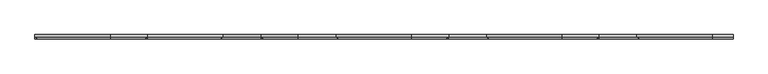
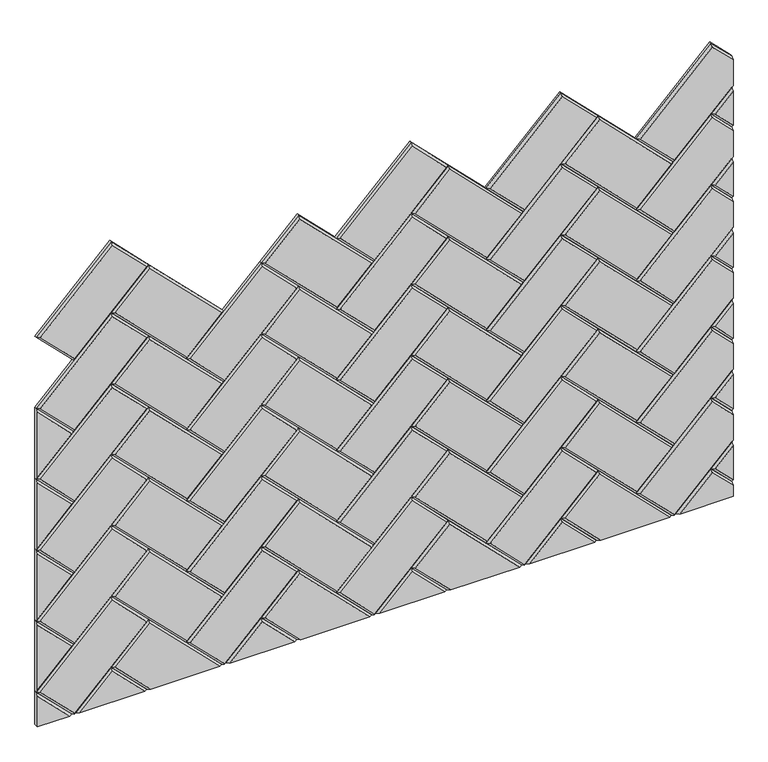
"""IFC4 building model written with IfcOpenShell, lengths in millimetres: proxy geometry, Wall_Wisteria 6.3dm."""

from ifc_helpers import new_model, si_unit, origin, place, context, project, spatial, faceted_brep, source, transform, mapped, element, save


def generic_models_9d3aa62c(model_context):
    return source(origin(), model_context, "Body", "Brep", [
        faceted_brep([(8168.7454586, 12.0, 0.0), (8270.8926325, 12.0, 102.1471739), (8373.0398064, 12.0, 0.0), (8373.0398064, 6.0, 0.0), (8270.8926325, 6.0, 102.1471739), (8168.7454586, 6.0, 0.0), (8177.23074, 0.0, 0.0), (8364.554525, 0.0, 0.0), (8270.8926325, 0.0, 93.6618925)], [[[0, 1, 2]], [[3, 2, 1, 4]], [[0, 5, 4, 1]], [[6, 7, 8]], [[7, 3, 4, 8]], [[5, 6, 8, 4]], [[0, 2, 3, 7, 6, 5]]]),
        faceted_brep([(8373.0398064, 12.0, 0.0), (8270.8926325, 12.0, 102.1471739), (8378.655706, 12.0, 209.9102473), (8588.5659533, 12.0, 0.0), (8588.5659533, 6.0, 0.0), (8378.655706, 6.0, 209.9102473), (8270.8926325, 6.0, 102.1471739), (8373.0398064, 6.0, 0.0), (8381.5250878, 0.0, 0.0), (8580.0806719, 0.0, 0.0), (8378.655706, 0.0, 201.424966), (8279.3779139, 0.0, 102.1471739)], [[[0, 1, 2, 3]], [[4, 3, 2, 5]], [[5, 2, 1, 6]], [[0, 7, 6, 1]], [[8, 9, 10, 11]], [[9, 4, 5, 10]], [[5, 6, 11, 10]], [[7, 8, 11, 6]], [[0, 3, 4, 9, 8, 7]]]),
        faceted_brep([(8762.2096042, 12.0, 162.4118517), (8599.7977524, 12.0, 0.0), (8588.5659533, 12.0, 0.0), (8486.4187794, 12.0, 102.1471739), (8701.9449263, 12.0, 317.6733208), (8762.2096042, 12.0, 257.408643), (8762.2096042, 6.0, 257.408643), (8701.9449263, 6.0, 317.6733208), (8486.4187794, 6.0, 102.1471739), (8588.5659533, 6.0, 0.0), (8599.7977524, 6.0, 0.0), (8762.2096042, 6.0, 162.4118517), (8762.2096042, 0.0, 170.8971331), (8762.2096042, 0.0, 248.9233616), (8701.9449263, 0.0, 309.1880394), (8494.9040608, 0.0, 102.1471739), (8594.1818529, 0.0, 2.8693818), (8594.1818529, 2.0289593, 0.0)], [[[0, 1, 2, 3, 4, 5]], [[6, 5, 4, 7]], [[7, 4, 3, 8]], [[2, 9, 8, 3]], [[10, 1, 0, 11]], [[12, 13, 14, 15, 16]], [[13, 6, 7, 14]], [[7, 8, 15, 14]], [[9, 17, 16, 15, 8]], [[17, 10, 11, 12, 16]], [[9, 2, 1, 10, 17]], [[0, 5, 6, 13, 12, 11]]]),
        faceted_brep([(8762.2096042, 12.0, 377.9379987), (8594.1818529, 12.0, 209.9102473), (8486.4187794, 12.0, 317.6733208), (8701.9449263, 12.0, 533.1994677), (8762.2096042, 12.0, 472.9347899), (8762.2096042, 6.0, 472.9347899), (8701.9449263, 6.0, 533.1994677), (8486.4187794, 6.0, 317.6733208), (8594.1818529, 6.0, 209.9102473), (8762.2096042, 6.0, 377.9379987), (8762.2096042, 0.0, 386.42328), (8762.2096042, 0.0, 464.4495085), (8701.9449263, 0.0, 524.7141863), (8494.9040608, 0.0, 317.6733208), (8594.1818529, 0.0, 218.3955287)], [[[0, 1, 2, 3, 4]], [[5, 4, 3, 6]], [[6, 3, 2, 7]], [[7, 2, 1, 8]], [[0, 9, 8, 1]], [[10, 11, 12, 13, 14]], [[11, 5, 6, 12]], [[6, 7, 13, 12]], [[7, 8, 14, 13]], [[9, 10, 14, 8]], [[0, 4, 5, 11, 10, 9]]]),
        faceted_brep([(8762.2096042, 12.0, 0.0), (8599.7977524, 12.0, 0.0), (8701.9449263, 12.0, 102.1471739), (8762.2096042, 12.0, 41.882496), (8762.2096042, 6.0, 41.882496), (8701.9449263, 6.0, 102.1471739), (8599.7977524, 6.0, 0.0), (8608.2830338, 0.0, 0.0), (8762.2096042, 0.0, 0.0), (8762.2096042, 0.0, 33.3972147), (8701.9449263, 0.0, 93.6618925)], [[[0, 1, 2, 3]], [[4, 3, 2, 5]], [[1, 6, 5, 2]], [[7, 8, 9, 10]], [[9, 4, 5, 10]], [[6, 7, 10, 5]], [[7, 6, 1, 0, 8]], [[0, 3, 4, 9, 8]]]),
        faceted_brep([(8762.2096042, 12.0, 41.882496), (8701.9449263, 12.0, 102.1471739), (8762.2096042, 12.0, 162.4118517), (8762.2096042, 6.0, 162.4118517), (8701.9449263, 6.0, 102.1471739), (8762.2096042, 6.0, 41.882496), (8762.2096042, 0.0, 50.3677774), (8762.2096042, 0.0, 153.9265704), (8710.4302077, 0.0, 102.1471739)], [[[0, 1, 2]], [[3, 2, 1, 4]], [[0, 5, 4, 1]], [[6, 7, 8]], [[7, 3, 4, 8]], [[5, 6, 8, 4]], [[0, 2, 3, 7, 6, 5]]]),
        faceted_brep([(8762.2096042, 12.0, 257.408643), (8701.9449263, 12.0, 317.6733208), (8762.2096042, 12.0, 377.9379987), (8762.2096042, 6.0, 377.9379987), (8701.9449263, 6.0, 317.6733208), (8762.2096042, 6.0, 257.408643), (8762.2096042, 0.0, 265.8939243), (8762.2096042, 0.0, 369.4527173), (8710.4302077, 0.0, 317.6733208)], [[[0, 1, 2]], [[3, 2, 1, 4]], [[0, 5, 4, 1]], [[6, 7, 8]], [[7, 3, 4, 8]], [[5, 6, 8, 4]], [[0, 2, 3, 7, 6, 5]]]),
        faceted_brep([(7306.640871, 12.0, 0.0), (7408.7880449, 12.0, 102.1471739), (7510.9352188, 12.0, 0.0), (7510.9352188, 6.0, 0.0), (7408.7880449, 6.0, 102.1471739), (7306.640871, 6.0, 0.0), (7315.1261524, 0.0, 0.0), (7502.4499374, 0.0, 0.0), (7408.7880449, 0.0, 93.6618925)], [[[0, 1, 2]], [[3, 2, 1, 4]], [[0, 5, 4, 1]], [[6, 7, 8]], [[7, 3, 4, 8]], [[5, 6, 8, 4]], [[0, 2, 3, 7, 6, 5]]]),
        faceted_brep([(7737.6931648, 12.0, 0.0), (7839.8403387, 12.0, 102.1471739), (7941.9875126, 12.0, 0.0), (7941.9875126, 6.0, 0.0), (7839.8403387, 6.0, 102.1471739), (7737.6931648, 6.0, 0.0), (7746.1784462, 0.0, 0.0), (7933.5022312, 0.0, 0.0), (7839.8403387, 0.0, 93.6618925)], [[[0, 1, 2]], [[3, 2, 1, 4]], [[0, 5, 4, 1]], [[6, 7, 8]], [[7, 3, 4, 8]], [[5, 6, 8, 4]], [[0, 2, 3, 7, 6, 5]]]),
        faceted_brep([(7510.9352188, 12.0, 0.0), (7408.7880449, 12.0, 102.1471739), (7516.5511183, 12.0, 209.9102473), (7726.4613657, 12.0, 0.0), (7726.4613657, 6.0, 0.0), (7516.5511183, 6.0, 209.9102473), (7408.7880449, 6.0, 102.1471739), (7510.9352188, 6.0, 0.0), (7519.4205002, 0.0, 0.0), (7717.9760843, 0.0, 0.0), (7516.5511183, 0.0, 201.424966), (7417.2733263, 0.0, 102.1471739)], [[[0, 1, 2, 3]], [[4, 3, 2, 5]], [[5, 2, 1, 6]], [[0, 7, 6, 1]], [[8, 9, 10, 11]], [[9, 4, 5, 10]], [[5, 6, 11, 10]], [[7, 8, 11, 6]], [[0, 3, 4, 9, 8, 7]]]),
        faceted_brep([(7941.9875126, 12.0, 0.0), (7839.8403387, 12.0, 102.1471739), (7947.6034122, 12.0, 209.9102473), (8157.5136595, 12.0, 0.0), (8157.5136595, 6.0, 0.0), (7947.6034122, 6.0, 209.9102473), (7839.8403387, 6.0, 102.1471739), (7941.9875126, 6.0, 0.0), (7950.472794, 0.0, 0.0), (8149.0283781, 0.0, 0.0), (7947.6034122, 0.0, 201.424966), (7848.3256201, 0.0, 102.1471739)], [[[0, 1, 2, 3]], [[4, 3, 2, 5]], [[5, 2, 1, 6]], [[0, 7, 6, 1]], [[8, 9, 10, 11]], [[9, 4, 5, 10]], [[5, 6, 11, 10]], [[7, 8, 11, 6]], [[0, 3, 4, 9, 8, 7]]]),
        faceted_brep([(7726.4613657, 12.0, 0.0), (7624.3141918, 12.0, 102.1471739), (7839.8403387, 12.0, 317.6733208), (7947.6034122, 12.0, 209.9102473), (7737.6931648, 12.0, 0.0), (7947.6034122, 6.0, 209.9102473), (7839.8403387, 6.0, 317.6733208), (7624.3141918, 6.0, 102.1471739), (7726.4613657, 6.0, 0.0), (7737.6931648, 6.0, 0.0), (7632.7994732, 0.0, 102.1471739), (7732.0772652, 0.0, 2.8693818), (7939.1181308, 0.0, 209.9102473), (7839.8403387, 0.0, 309.1880394), (7732.0772652, 2.0289593, 0.0)], [[[0, 1, 2, 3, 4]], [[5, 3, 2, 6]], [[6, 2, 1, 7]], [[0, 8, 7, 1]], [[9, 4, 3, 5]], [[10, 11, 12, 13]], [[5, 6, 13, 12]], [[6, 7, 10, 13]], [[8, 14, 11, 10, 7]], [[14, 9, 5, 12, 11]], [[0, 4, 9, 14, 8]]]),
        faceted_brep([(7947.6034122, 12.0, 425.4363943), (7732.0772652, 12.0, 209.9102473), (7624.3141918, 12.0, 317.6733208), (7839.8403387, 12.0, 533.1994677), (7947.6034122, 6.0, 425.4363943), (7839.8403387, 6.0, 533.1994677), (7624.3141918, 6.0, 317.6733208), (7732.0772652, 6.0, 209.9102473), (7632.7994732, 0.0, 317.6733208), (7732.0772652, 0.0, 218.3955287), (7939.1181308, 0.0, 425.4363943), (7839.8403387, 0.0, 524.7141863)], [[[0, 1, 2, 3]], [[4, 0, 3, 5]], [[5, 3, 2, 6]], [[6, 2, 1, 7]], [[7, 1, 0, 4]], [[8, 9, 10, 11]], [[4, 5, 11, 10]], [[5, 6, 8, 11]], [[6, 7, 9, 8]], [[7, 4, 10, 9]]]),
        faceted_brep([(8157.5136595, 12.0, 0.0), (8055.3664856, 12.0, 102.1471739), (8270.8926325, 12.0, 317.6733208), (8378.655706, 12.0, 209.9102473), (8168.7454586, 12.0, 0.0), (8378.655706, 6.0, 209.9102473), (8270.8926325, 6.0, 317.6733208), (8055.3664856, 6.0, 102.1471739), (8157.5136595, 6.0, 0.0), (8168.7454586, 6.0, 0.0), (8063.851767, 0.0, 102.1471739), (8163.1295591, 0.0, 2.8693818), (8370.1704246, 0.0, 209.9102473), (8270.8926325, 0.0, 309.1880394), (8163.1295591, 2.0289593, 0.0)], [[[0, 1, 2, 3, 4]], [[5, 3, 2, 6]], [[6, 2, 1, 7]], [[0, 8, 7, 1]], [[9, 4, 3, 5]], [[10, 11, 12, 13]], [[5, 6, 13, 12]], [[6, 7, 10, 13]], [[8, 14, 11, 10, 7]], [[14, 9, 5, 12, 11]], [[0, 4, 9, 14, 8]]]),
        faceted_brep([(8055.3664856, 12.0, 102.1471739), (7839.8403387, 12.0, 317.6733208), (7947.6034122, 12.0, 425.4363943), (8163.1295591, 12.0, 209.9102473), (8055.3664856, 6.0, 102.1471739), (8163.1295591, 6.0, 209.9102473), (7947.6034122, 6.0, 425.4363943), (7839.8403387, 6.0, 317.6733208), (7947.6034122, 0.0, 416.9511129), (7848.3256201, 0.0, 317.6733208), (8055.3664856, 0.0, 110.6324553), (8154.6442777, 0.0, 209.9102473)], [[[0, 1, 2, 3]], [[4, 0, 3, 5]], [[5, 3, 2, 6]], [[6, 2, 1, 7]], [[7, 1, 0, 4]], [[8, 9, 10, 11]], [[4, 5, 11, 10]], [[5, 6, 8, 11]], [[6, 7, 9, 8]], [[7, 4, 10, 9]]]),
        faceted_brep([(8486.4187794, 12.0, 102.1471739), (8270.8926325, 12.0, 317.6733208), (8378.655706, 12.0, 425.4363943), (8594.1818529, 12.0, 209.9102473), (8486.4187794, 6.0, 102.1471739), (8594.1818529, 6.0, 209.9102473), (8378.655706, 6.0, 425.4363943), (8270.8926325, 6.0, 317.6733208), (8378.655706, 0.0, 416.9511129), (8279.3779139, 0.0, 317.6733208), (8486.4187794, 0.0, 110.6324553), (8585.6965715, 0.0, 209.9102473)], [[[0, 1, 2, 3]], [[4, 0, 3, 5]], [[5, 3, 2, 6]], [[6, 2, 1, 7]], [[7, 1, 0, 4]], [[8, 9, 10, 11]], [[4, 5, 11, 10]], [[5, 6, 8, 11]], [[6, 7, 9, 8]], [[7, 4, 10, 9]]]),
        faceted_brep([(8378.655706, 12.0, 425.4363943), (8163.1295591, 12.0, 209.9102473), (8055.3664856, 12.0, 317.6733208), (8270.8926325, 12.0, 533.1994677), (8378.655706, 6.0, 425.4363943), (8270.8926325, 6.0, 533.1994677), (8055.3664856, 6.0, 317.6733208), (8163.1295591, 6.0, 209.9102473), (8063.851767, 0.0, 317.6733208), (8163.1295591, 0.0, 218.3955287), (8370.1704246, 0.0, 425.4363943), (8270.8926325, 0.0, 524.7141863)], [[[0, 1, 2, 3]], [[4, 0, 3, 5]], [[5, 3, 2, 6]], [[6, 2, 1, 7]], [[7, 1, 0, 4]], [[8, 9, 10, 11]], [[4, 5, 11, 10]], [[5, 6, 8, 11]], [[6, 7, 9, 8]], [[7, 4, 10, 9]]]),
        faceted_brep([(7079.882925, 12.0, 0.0), (6977.7357511, 12.0, 102.1471739), (7085.4988245, 12.0, 209.9102473), (7295.4090719, 12.0, 0.0), (7295.4090719, 6.0, 0.0), (7085.4988245, 6.0, 209.9102473), (6977.7357511, 6.0, 102.1471739), (7079.882925, 6.0, 0.0), (7088.3682063, 0.0, 0.0), (7286.9237905, 0.0, 0.0), (7085.4988245, 0.0, 201.424966), (6986.2210324, 0.0, 102.1471739)], [[[0, 1, 2, 3]], [[4, 3, 2, 5]], [[5, 2, 1, 6]], [[0, 7, 6, 1]], [[8, 9, 10, 11]], [[9, 4, 5, 10]], [[5, 6, 11, 10]], [[7, 8, 11, 6]], [[0, 3, 4, 9, 8, 7]]]),
        faceted_brep([(6864.3567781, 12.0, 0.0), (6762.2096042, 12.0, 102.1471739), (6977.7357511, 12.0, 317.6733208), (7085.4988245, 12.0, 209.9102473), (6875.5885772, 12.0, 0.0), (7085.4988245, 6.0, 209.9102473), (6977.7357511, 6.0, 317.6733208), (6762.2096042, 6.0, 102.1471739), (6864.3567781, 6.0, 0.0), (6875.5885772, 6.0, 0.0), (6770.6948855, 0.0, 102.1471739), (6869.9726776, 0.0, 2.8693818), (7077.0135432, 0.0, 209.9102473), (6977.7357511, 0.0, 309.1880394), (6869.9726776, 2.0289593, 0.0)], [[[0, 1, 2, 3, 4]], [[5, 3, 2, 6]], [[6, 2, 1, 7]], [[0, 8, 7, 1]], [[9, 4, 3, 5]], [[10, 11, 12, 13]], [[5, 6, 13, 12]], [[6, 7, 10, 13]], [[8, 14, 11, 10, 7]], [[14, 9, 5, 12, 11]], [[14, 8, 0, 4, 9]]]),
        faceted_brep([(7295.4090719, 12.0, 0.0), (7193.261898, 12.0, 102.1471739), (7408.7880449, 12.0, 317.6733208), (7516.5511183, 12.0, 209.9102473), (7306.640871, 12.0, 0.0), (7516.5511183, 6.0, 209.9102473), (7408.7880449, 6.0, 317.6733208), (7193.261898, 6.0, 102.1471739), (7295.4090719, 6.0, 0.0), (7306.640871, 6.0, 0.0), (7201.7471794, 0.0, 102.1471739), (7301.0249714, 0.0, 2.8693818), (7508.065837, 0.0, 209.9102473), (7408.7880449, 0.0, 309.1880394), (7301.0249714, 2.0289593, 0.0)], [[[0, 1, 2, 3, 4]], [[5, 3, 2, 6]], [[6, 2, 1, 7]], [[0, 8, 7, 1]], [[9, 4, 3, 5]], [[10, 11, 12, 13]], [[5, 6, 13, 12]], [[6, 7, 10, 13]], [[8, 14, 11, 10, 7]], [[14, 9, 5, 12, 11]], [[0, 4, 9, 14, 8]]]),
        faceted_brep([(7193.261898, 12.0, 102.1471739), (6977.7357511, 12.0, 317.6733208), (7085.4988245, 12.0, 425.4363943), (7301.0249714, 12.0, 209.9102473), (7193.261898, 6.0, 102.1471739), (7301.0249714, 6.0, 209.9102473), (7085.4988245, 6.0, 425.4363943), (6977.7357511, 6.0, 317.6733208), (7085.4988245, 0.0, 416.9511129), (6986.2210324, 0.0, 317.6733208), (7193.261898, 0.0, 110.6324553), (7292.5396901, 0.0, 209.9102473)], [[[0, 1, 2, 3]], [[4, 0, 3, 5]], [[5, 3, 2, 6]], [[6, 2, 1, 7]], [[7, 1, 0, 4]], [[8, 9, 10, 11]], [[4, 5, 11, 10]], [[5, 6, 8, 11]], [[6, 7, 9, 8]], [[7, 4, 10, 9]]]),
        faceted_brep([(7085.4988245, 12.0, 425.4363943), (6869.9726776, 12.0, 209.9102473), (6762.2096042, 12.0, 317.6733208), (6977.7357511, 12.0, 533.1994677), (7085.4988245, 6.0, 425.4363943), (6977.7357511, 6.0, 533.1994677), (6762.2096042, 6.0, 317.6733208), (6869.9726776, 6.0, 209.9102473), (6770.6948855, 0.0, 317.6733208), (6869.9726776, 0.0, 218.3955287), (7077.0135432, 0.0, 425.4363943), (6977.7357511, 0.0, 524.7141863)], [[[0, 1, 2, 3]], [[4, 0, 3, 5]], [[5, 3, 2, 6]], [[6, 2, 1, 7]], [[7, 1, 0, 4]], [[8, 9, 10, 11]], [[4, 5, 11, 10]], [[5, 6, 8, 11]], [[6, 7, 9, 8]], [[7, 4, 10, 9]]]),
        faceted_brep([(6875.5885772, 12.0, 0.0), (6977.7357511, 12.0, 102.1471739), (7079.882925, 12.0, 0.0), (7079.882925, 6.0, 0.0), (6977.7357511, 6.0, 102.1471739), (6875.5885772, 6.0, 0.0), (6884.0738586, 0.0, 0.0), (7071.3976436, 0.0, 0.0), (6977.7357511, 0.0, 93.6618925)], [[[0, 1, 2]], [[3, 2, 1, 4]], [[0, 5, 4, 1]], [[6, 7, 8]], [[7, 3, 4, 8]], [[5, 6, 8, 4]], [[0, 2, 3, 7, 6, 5]]]),
        faceted_brep([(6762.2096042, 12.0, 102.1471739), (6864.3567781, 12.0, 0.0), (6762.2096042, 12.0, 0.0), (6864.3567781, 6.0, 0.0), (6762.2096042, 6.0, 102.1471739), (6762.2096042, 0.0, 0.0), (6855.8714967, 0.0, 0.0), (6762.2096042, 0.0, 93.6618925)], [[[0, 1, 2]], [[3, 1, 0, 4]], [[5, 6, 7]], [[4, 7, 6, 3]], [[5, 2, 1, 3, 6]], [[0, 2, 5, 7, 4]]]),
        faceted_brep([(7624.3141918, 12.0, 102.1471739), (7408.7880449, 12.0, 317.6733208), (7516.5511183, 12.0, 425.4363943), (7732.0772652, 12.0, 209.9102473), (7624.3141918, 6.0, 102.1471739), (7732.0772652, 6.0, 209.9102473), (7516.5511183, 6.0, 425.4363943), (7408.7880449, 6.0, 317.6733208), (7516.5511183, 0.0, 416.9511129), (7417.2733263, 0.0, 317.6733208), (7624.3141918, 0.0, 110.6324553), (7723.5919839, 0.0, 209.9102473)], [[[0, 1, 2, 3]], [[4, 0, 3, 5]], [[5, 3, 2, 6]], [[6, 2, 1, 7]], [[7, 1, 0, 4]], [[8, 9, 10, 11]], [[4, 5, 11, 10]], [[5, 6, 8, 11]], [[6, 7, 9, 8]], [[7, 4, 10, 9]]]),
        faceted_brep([(7516.5511183, 12.0, 425.4363943), (7301.0249714, 12.0, 209.9102473), (7193.261898, 12.0, 317.6733208), (7408.7880449, 12.0, 533.1994677), (7516.5511183, 6.0, 425.4363943), (7408.7880449, 6.0, 533.1994677), (7193.261898, 6.0, 317.6733208), (7301.0249714, 6.0, 209.9102473), (7201.7471794, 0.0, 317.6733208), (7301.0249714, 0.0, 218.3955287), (7508.065837, 0.0, 425.4363943), (7408.7880449, 0.0, 524.7141863)], [[[0, 1, 2, 3]], [[4, 0, 3, 5]], [[5, 3, 2, 6]], [[6, 2, 1, 7]], [[7, 1, 0, 4]], [[8, 9, 10, 11]], [[4, 5, 11, 10]], [[5, 6, 8, 11]], [[6, 7, 9, 8]], [[7, 4, 10, 9]]]),
        faceted_brep([(6762.2096042, 12.0, 317.6733208), (6869.9726776, 12.0, 209.9102473), (6762.2096042, 12.0, 102.1471739), (6762.2096042, 6.0, 102.1471739), (6869.9726776, 6.0, 209.9102473), (6762.2096042, 6.0, 317.6733208), (6762.2096042, 0.0, 309.1880394), (6762.2096042, 0.0, 110.6324553), (6861.4873962, 0.0, 209.9102473)], [[[0, 1, 2]], [[3, 2, 1, 4]], [[0, 5, 4, 1]], [[6, 7, 8]], [[3, 4, 8, 7]], [[5, 6, 8, 4]], [[0, 2, 3, 7, 6, 5]]]),
        faceted_brep([(8378.655706, 12.0, 640.9625412), (8163.1295591, 12.0, 425.4363943), (8055.3664856, 12.0, 533.1994677), (8270.8926325, 12.0, 748.7256146), (8378.655706, 6.0, 640.9625412), (8270.8926325, 6.0, 748.7256146), (8055.3664856, 6.0, 533.1994677), (8163.1295591, 6.0, 425.4363943), (8063.851767, 0.0, 533.1994677), (8163.1295591, 0.0, 433.9216756), (8370.1704246, 0.0, 640.9625412), (8270.8926325, 0.0, 740.2403332)], [[[0, 1, 2, 3]], [[4, 0, 3, 5]], [[5, 3, 2, 6]], [[6, 2, 1, 7]], [[7, 1, 0, 4]], [[8, 9, 10, 11]], [[4, 5, 11, 10]], [[5, 6, 8, 11]], [[6, 7, 9, 8]], [[7, 4, 10, 9]]]),
        faceted_brep([(8486.4187794, 12.0, 317.6733208), (8270.8926325, 12.0, 533.1994677), (8378.655706, 12.0, 640.9625412), (8594.1818529, 12.0, 425.4363943), (8486.4187794, 6.0, 317.6733208), (8594.1818529, 6.0, 425.4363943), (8378.655706, 6.0, 640.9625412), (8270.8926325, 6.0, 533.1994677), (8378.655706, 0.0, 632.4772598), (8279.3779139, 0.0, 533.1994677), (8486.4187794, 0.0, 326.1586022), (8585.6965715, 0.0, 425.4363943)], [[[0, 1, 2, 3]], [[4, 0, 3, 5]], [[5, 3, 2, 6]], [[6, 2, 1, 7]], [[7, 1, 0, 4]], [[8, 9, 10, 11]], [[4, 5, 11, 10]], [[5, 6, 8, 11]], [[6, 7, 9, 8]], [[7, 4, 10, 9]]]),
        faceted_brep([(8762.2096042, 12.0, 472.9347899), (8701.9449263, 12.0, 533.1994677), (8762.2096042, 12.0, 593.4641456), (8762.2096042, 6.0, 593.4641456), (8701.9449263, 6.0, 533.1994677), (8762.2096042, 6.0, 472.9347899), (8762.2096042, 0.0, 481.4200712), (8762.2096042, 0.0, 584.9788642), (8710.4302077, 0.0, 533.1994677)], [[[0, 1, 2]], [[3, 2, 1, 4]], [[0, 5, 4, 1]], [[6, 7, 8]], [[7, 3, 4, 8]], [[5, 6, 8, 4]], [[0, 2, 3, 7, 6, 5]]]),
        faceted_brep([(8762.2096042, 12.0, 593.4641456), (8594.1818529, 12.0, 425.4363943), (8486.4187794, 12.0, 533.1994677), (8701.9449263, 12.0, 748.7256146), (8762.2096042, 12.0, 688.4609368), (8762.2096042, 6.0, 688.4609368), (8701.9449263, 6.0, 748.7256146), (8486.4187794, 6.0, 533.1994677), (8594.1818529, 6.0, 425.4363943), (8762.2096042, 6.0, 593.4641456), (8762.2096042, 0.0, 601.9494269), (8762.2096042, 0.0, 679.9756554), (8701.9449263, 0.0, 740.2403332), (8494.9040608, 0.0, 533.1994677), (8594.1818529, 0.0, 433.9216756)], [[[0, 1, 2, 3, 4]], [[5, 4, 3, 6]], [[6, 3, 2, 7]], [[7, 2, 1, 8]], [[0, 9, 8, 1]], [[10, 11, 12, 13, 14]], [[11, 5, 6, 12]], [[6, 7, 13, 12]], [[7, 8, 14, 13]], [[9, 10, 14, 8]], [[0, 4, 5, 11, 10, 9]]]),
        faceted_brep([(7624.3141918, 12.0, 317.6733208), (7408.7880449, 12.0, 533.1994677), (7516.5511183, 12.0, 640.9625412), (7732.0772652, 12.0, 425.4363943), (7624.3141918, 6.0, 317.6733208), (7732.0772652, 6.0, 425.4363943), (7516.5511183, 6.0, 640.9625412), (7408.7880449, 6.0, 533.1994677), (7516.5511183, 0.0, 632.4772598), (7417.2733263, 0.0, 533.1994677), (7624.3141918, 0.0, 326.1586022), (7723.5919839, 0.0, 425.4363943)], [[[0, 1, 2, 3]], [[4, 0, 3, 5]], [[5, 3, 2, 6]], [[6, 2, 1, 7]], [[7, 1, 0, 4]], [[8, 9, 10, 11]], [[4, 5, 11, 10]], [[5, 6, 8, 11]], [[6, 7, 9, 8]], [[7, 4, 10, 9]]]),
        faceted_brep([(7516.5511183, 12.0, 640.9625412), (7301.0249714, 12.0, 425.4363943), (7193.261898, 12.0, 533.1994677), (7408.7880449, 12.0, 748.7256146), (7516.5511183, 6.0, 640.9625412), (7408.7880449, 6.0, 748.7256146), (7193.261898, 6.0, 533.1994677), (7301.0249714, 6.0, 425.4363943), (7201.7471794, 0.0, 533.1994677), (7301.0249714, 0.0, 433.9216756), (7508.065837, 0.0, 640.9625412), (7408.7880449, 0.0, 740.2403332)], [[[0, 1, 2, 3]], [[4, 0, 3, 5]], [[5, 3, 2, 6]], [[6, 2, 1, 7]], [[7, 1, 0, 4]], [[8, 9, 10, 11]], [[4, 5, 11, 10]], [[5, 6, 8, 11]], [[6, 7, 9, 8]], [[7, 4, 10, 9]]]),
        faceted_brep([(8055.3664856, 12.0, 317.6733208), (7839.8403387, 12.0, 533.1994677), (7947.6034122, 12.0, 640.9625412), (8163.1295591, 12.0, 425.4363943), (8055.3664856, 6.0, 317.6733208), (8163.1295591, 6.0, 425.4363943), (7947.6034122, 6.0, 640.9625412), (7839.8403387, 6.0, 533.1994677), (7947.6034122, 0.0, 632.4772598), (7848.3256201, 0.0, 533.1994677), (8055.3664856, 0.0, 326.1586022), (8154.6442777, 0.0, 425.4363943)], [[[0, 1, 2, 3]], [[4, 0, 3, 5]], [[5, 3, 2, 6]], [[6, 2, 1, 7]], [[7, 1, 0, 4]], [[8, 9, 10, 11]], [[4, 5, 11, 10]], [[5, 6, 8, 11]], [[6, 7, 9, 8]], [[7, 4, 10, 9]]]),
        faceted_brep([(7947.6034122, 12.0, 640.9625412), (7732.0772652, 12.0, 425.4363943), (7624.3141918, 12.0, 533.1994677), (7839.8403387, 12.0, 748.7256146), (7947.6034122, 6.0, 640.9625412), (7839.8403387, 6.0, 748.7256146), (7624.3141918, 6.0, 533.1994677), (7732.0772652, 6.0, 425.4363943), (7632.7994732, 0.0, 533.1994677), (7732.0772652, 0.0, 433.9216756), (7939.1181308, 0.0, 640.9625412), (7839.8403387, 0.0, 740.2403332)], [[[0, 1, 2, 3]], [[4, 0, 3, 5]], [[5, 3, 2, 6]], [[6, 2, 1, 7]], [[7, 1, 0, 4]], [[8, 9, 10, 11]], [[4, 5, 11, 10]], [[5, 6, 8, 11]], [[6, 7, 9, 8]], [[7, 4, 10, 9]]]),
        faceted_brep([(6762.2096042, 12.0, 533.1994677), (6869.9726776, 12.0, 425.4363943), (6762.2096042, 12.0, 317.6733208), (6762.2096042, 6.0, 317.6733208), (6869.9726776, 6.0, 425.4363943), (6762.2096042, 6.0, 533.1994677), (6762.2096042, 0.0, 524.7141863), (6762.2096042, 0.0, 326.1586022), (6861.4873962, 0.0, 425.4363943)], [[[0, 1, 2]], [[3, 2, 1, 4]], [[0, 5, 4, 1]], [[6, 7, 8]], [[3, 4, 8, 7]], [[5, 6, 8, 4]], [[0, 2, 3, 7, 6, 5]]]),
        faceted_brep([(7193.261898, 12.0, 317.6733208), (6977.7357511, 12.0, 533.1994677), (7085.4988245, 12.0, 640.9625412), (7301.0249714, 12.0, 425.4363943), (7193.261898, 6.0, 317.6733208), (7301.0249714, 6.0, 425.4363943), (7085.4988245, 6.0, 640.9625412), (6977.7357511, 6.0, 533.1994677), (7085.4988245, 0.0, 632.4772598), (6986.2210324, 0.0, 533.1994677), (7193.261898, 0.0, 326.1586022), (7292.5396901, 0.0, 425.4363943)], [[[0, 1, 2, 3]], [[4, 0, 3, 5]], [[5, 3, 2, 6]], [[6, 2, 1, 7]], [[7, 1, 0, 4]], [[8, 9, 10, 11]], [[4, 5, 11, 10]], [[5, 6, 8, 11]], [[6, 7, 9, 8]], [[7, 4, 10, 9]]]),
        faceted_brep([(7085.4988245, 12.0, 640.9625412), (6869.9726776, 12.0, 425.4363943), (6762.2096042, 12.0, 533.1994677), (6977.7357511, 12.0, 748.7256146), (7085.4988245, 6.0, 640.9625412), (6977.7357511, 6.0, 748.7256146), (6762.2096042, 6.0, 533.1994677), (6869.9726776, 6.0, 425.4363943), (6770.6948855, 0.0, 533.1994677), (6869.9726776, 0.0, 433.9216756), (7077.0135432, 0.0, 640.9625412), (6977.7357511, 0.0, 740.2403332)], [[[0, 1, 2, 3]], [[4, 0, 3, 5]], [[5, 3, 2, 6]], [[6, 2, 1, 7]], [[7, 1, 0, 4]], [[8, 9, 10, 11]], [[4, 5, 11, 10]], [[5, 6, 8, 11]], [[6, 7, 9, 8]], [[7, 4, 10, 9]]]),
        faceted_brep([(8378.655706, 12.0, 856.4886881), (8163.1295591, 12.0, 640.9625412), (8055.3664856, 12.0, 748.7256146), (8270.8926325, 12.0, 964.2517615), (8378.655706, 6.0, 856.4886881), (8270.8926325, 6.0, 964.2517615), (8055.3664856, 6.0, 748.7256146), (8163.1295591, 6.0, 640.9625412), (8063.851767, 0.0, 748.7256146), (8163.1295591, 0.0, 649.4478225), (8370.1704246, 0.0, 856.4886881), (8270.8926325, 0.0, 955.7664801)], [[[0, 1, 2, 3]], [[4, 0, 3, 5]], [[5, 3, 2, 6]], [[6, 2, 1, 7]], [[7, 1, 0, 4]], [[8, 9, 10, 11]], [[4, 5, 11, 10]], [[5, 6, 8, 11]], [[6, 7, 9, 8]], [[7, 4, 10, 9]]]),
        faceted_brep([(8486.4187794, 12.0, 748.7256146), (8270.8926325, 12.0, 964.2517615), (8378.655706, 12.0, 1072.014835), (8594.1818529, 12.0, 856.4886881), (8486.4187794, 6.0, 748.7256146), (8594.1818529, 6.0, 856.4886881), (8378.655706, 6.0, 1072.014835), (8270.8926325, 6.0, 964.2517615), (8378.655706, 0.0, 1063.5295536), (8279.3779139, 0.0, 964.2517615), (8486.4187794, 0.0, 757.210896), (8585.6965715, 0.0, 856.4886881)], [[[0, 1, 2, 3]], [[4, 0, 3, 5]], [[5, 3, 2, 6]], [[6, 2, 1, 7]], [[7, 1, 0, 4]], [[8, 9, 10, 11]], [[4, 5, 11, 10]], [[5, 6, 8, 11]], [[6, 7, 9, 8]], [[7, 4, 10, 9]]]),
        faceted_brep([(8762.2096042, 12.0, 1024.5164394), (8594.1818529, 12.0, 856.4886881), (8486.4187794, 12.0, 964.2517615), (8701.9449263, 12.0, 1179.7779084), (8762.2096042, 12.0, 1119.5132306), (8762.2096042, 6.0, 1119.5132306), (8701.9449263, 6.0, 1179.7779084), (8486.4187794, 6.0, 964.2517615), (8594.1818529, 6.0, 856.4886881), (8762.2096042, 6.0, 1024.5164394), (8762.2096042, 0.0, 1033.0017207), (8762.2096042, 0.0, 1111.0279492), (8701.9449263, 0.0, 1171.2926271), (8494.9040608, 0.0, 964.2517615), (8594.1818529, 0.0, 864.9739694)], [[[0, 1, 2, 3, 4]], [[5, 4, 3, 6]], [[6, 3, 2, 7]], [[7, 2, 1, 8]], [[0, 9, 8, 1]], [[10, 11, 12, 13, 14]], [[11, 5, 6, 12]], [[6, 7, 13, 12]], [[7, 8, 14, 13]], [[9, 10, 14, 8]], [[0, 4, 5, 11, 10, 9]]]),
        faceted_brep([(8762.2096042, 12.0, 1240.0425863), (8594.1818529, 12.0, 1072.014835), (8486.4187794, 12.0, 1179.7779084), (8701.9449263, 12.0, 1395.3040553), (8762.2096042, 12.0, 1335.0393775), (8762.2096042, 6.0, 1335.0393775), (8701.9449263, 6.0, 1395.3040553), (8486.4187794, 6.0, 1179.7779084), (8594.1818529, 6.0, 1072.014835), (8762.2096042, 6.0, 1240.0425863), (8762.2096042, 0.0, 1248.5278676), (8762.2096042, 0.0, 1326.5540961), (8701.9449263, 0.0, 1386.818774), (8494.9040608, 0.0, 1179.7779084), (8594.1818529, 0.0, 1080.5001163)], [[[0, 1, 2, 3, 4]], [[5, 4, 3, 6]], [[6, 3, 2, 7]], [[7, 2, 1, 8]], [[0, 9, 8, 1]], [[10, 11, 12, 13, 14]], [[11, 5, 6, 12]], [[6, 7, 13, 12]], [[7, 8, 14, 13]], [[9, 10, 14, 8]], [[0, 4, 5, 11, 10, 9]]]),
        faceted_brep([(8486.4187794, 12.0, 533.1994677), (8270.8926325, 12.0, 748.7256146), (8378.655706, 12.0, 856.4886881), (8594.1818529, 12.0, 640.9625412), (8486.4187794, 6.0, 533.1994677), (8594.1818529, 6.0, 640.9625412), (8378.655706, 6.0, 856.4886881), (8270.8926325, 6.0, 748.7256146), (8378.655706, 0.0, 848.0034067), (8279.3779139, 0.0, 748.7256146), (8486.4187794, 0.0, 541.6847491), (8585.6965715, 0.0, 640.9625412)], [[[0, 1, 2, 3]], [[4, 0, 3, 5]], [[5, 3, 2, 6]], [[6, 2, 1, 7]], [[7, 1, 0, 4]], [[8, 9, 10, 11]], [[4, 5, 11, 10]], [[5, 6, 8, 11]], [[6, 7, 9, 8]], [[7, 4, 10, 9]]]),
        faceted_brep([(8762.2096042, 12.0, 688.4609368), (8701.9449263, 12.0, 748.7256146), (8762.2096042, 12.0, 808.9902925), (8762.2096042, 6.0, 808.9902925), (8701.9449263, 6.0, 748.7256146), (8762.2096042, 6.0, 688.4609368), (8762.2096042, 0.0, 696.9462181), (8762.2096042, 0.0, 800.5050111), (8710.4302077, 0.0, 748.7256146)], [[[0, 1, 2]], [[3, 2, 1, 4]], [[0, 5, 4, 1]], [[6, 7, 8]], [[7, 3, 4, 8]], [[5, 6, 8, 4]], [[0, 2, 3, 7, 6, 5]]]),
        faceted_brep([(8762.2096042, 12.0, 808.9902925), (8594.1818529, 12.0, 640.9625412), (8486.4187794, 12.0, 748.7256146), (8701.9449263, 12.0, 964.2517615), (8762.2096042, 12.0, 903.9870837), (8762.2096042, 6.0, 903.9870837), (8701.9449263, 6.0, 964.2517615), (8486.4187794, 6.0, 748.7256146), (8594.1818529, 6.0, 640.9625412), (8762.2096042, 6.0, 808.9902925), (8762.2096042, 0.0, 817.4755738), (8762.2096042, 0.0, 895.5018023), (8701.9449263, 0.0, 955.7664801), (8494.9040608, 0.0, 748.7256146), (8594.1818529, 0.0, 649.4478225)], [[[0, 1, 2, 3, 4]], [[5, 4, 3, 6]], [[6, 3, 2, 7]], [[7, 2, 1, 8]], [[0, 9, 8, 1]], [[10, 11, 12, 13, 14]], [[11, 5, 6, 12]], [[6, 7, 13, 12]], [[7, 8, 14, 13]], [[9, 10, 14, 8]], [[0, 4, 5, 11, 10, 9]]]),
        faceted_brep([(8762.2096042, 12.0, 903.9870837), (8701.9449263, 12.0, 964.2517615), (8762.2096042, 12.0, 1024.5164394), (8762.2096042, 6.0, 1024.5164394), (8701.9449263, 6.0, 964.2517615), (8762.2096042, 6.0, 903.9870837), (8762.2096042, 0.0, 912.472365), (8762.2096042, 0.0, 1016.031158), (8710.4302077, 0.0, 964.2517615)], [[[0, 1, 2]], [[3, 2, 1, 4]], [[0, 5, 4, 1]], [[6, 7, 8]], [[7, 3, 4, 8]], [[5, 6, 8, 4]], [[0, 2, 3, 7, 6, 5]]]),
        faceted_brep([(8762.2096042, 12.0, 1119.5132306), (8701.9449263, 12.0, 1179.7779084), (8762.2096042, 12.0, 1240.0425863), (8762.2096042, 6.0, 1240.0425863), (8701.9449263, 6.0, 1179.7779084), (8762.2096042, 6.0, 1119.5132306), (8762.2096042, 0.0, 1127.9985119), (8762.2096042, 0.0, 1231.5573049), (8710.4302077, 0.0, 1179.7779084)], [[[0, 1, 2]], [[3, 2, 1, 4]], [[0, 5, 4, 1]], [[6, 7, 8]], [[7, 3, 4, 8]], [[5, 6, 8, 4]], [[0, 2, 3, 7, 6, 5]]]),
        faceted_brep([(7624.3141918, 12.0, 533.1994677), (7408.7880449, 12.0, 748.7256146), (7516.5511183, 12.0, 856.4886881), (7732.0772652, 12.0, 640.9625412), (7624.3141918, 6.0, 533.1994677), (7732.0772652, 6.0, 640.9625412), (7516.5511183, 6.0, 856.4886881), (7408.7880449, 6.0, 748.7256146), (7516.5511183, 0.0, 848.0034067), (7417.2733263, 0.0, 748.7256146), (7624.3141918, 0.0, 541.6847491), (7723.5919839, 0.0, 640.9625412)], [[[0, 1, 2, 3]], [[4, 0, 3, 5]], [[5, 3, 2, 6]], [[6, 2, 1, 7]], [[7, 1, 0, 4]], [[8, 9, 10, 11]], [[4, 5, 11, 10]], [[5, 6, 8, 11]], [[6, 7, 9, 8]], [[7, 4, 10, 9]]]),
        faceted_brep([(7516.5511183, 12.0, 856.4886881), (7301.0249714, 12.0, 640.9625412), (7193.261898, 12.0, 748.7256146), (7408.7880449, 12.0, 964.2517615), (7516.5511183, 6.0, 856.4886881), (7408.7880449, 6.0, 964.2517615), (7193.261898, 6.0, 748.7256146), (7301.0249714, 6.0, 640.9625412), (7201.7471794, 0.0, 748.7256146), (7301.0249714, 0.0, 649.4478225), (7508.065837, 0.0, 856.4886881), (7408.7880449, 0.0, 955.7664801)], [[[0, 1, 2, 3]], [[4, 0, 3, 5]], [[5, 3, 2, 6]], [[6, 2, 1, 7]], [[7, 1, 0, 4]], [[8, 9, 10, 11]], [[4, 5, 11, 10]], [[5, 6, 8, 11]], [[6, 7, 9, 8]], [[7, 4, 10, 9]]]),
        faceted_brep([(8055.3664856, 12.0, 533.1994677), (7839.8403387, 12.0, 748.7256146), (7947.6034122, 12.0, 856.4886881), (8163.1295591, 12.0, 640.9625412), (8055.3664856, 6.0, 533.1994677), (8163.1295591, 6.0, 640.9625412), (7947.6034122, 6.0, 856.4886881), (7839.8403387, 6.0, 748.7256146), (7947.6034122, 0.0, 848.0034067), (7848.3256201, 0.0, 748.7256146), (8055.3664856, 0.0, 541.6847491), (8154.6442777, 0.0, 640.9625412)], [[[0, 1, 2, 3]], [[4, 0, 3, 5]], [[5, 3, 2, 6]], [[6, 2, 1, 7]], [[7, 1, 0, 4]], [[8, 9, 10, 11]], [[4, 5, 11, 10]], [[5, 6, 8, 11]], [[6, 7, 9, 8]], [[7, 4, 10, 9]]]),
        faceted_brep([(7947.6034122, 12.0, 856.4886881), (7732.0772652, 12.0, 640.9625412), (7624.3141918, 12.0, 748.7256146), (7839.8403387, 12.0, 964.2517615), (7947.6034122, 6.0, 856.4886881), (7839.8403387, 6.0, 964.2517615), (7624.3141918, 6.0, 748.7256146), (7732.0772652, 6.0, 640.9625412), (7632.7994732, 0.0, 748.7256146), (7732.0772652, 0.0, 649.4478225), (7939.1181308, 0.0, 856.4886881), (7839.8403387, 0.0, 955.7664801)], [[[0, 1, 2, 3]], [[4, 0, 3, 5]], [[5, 3, 2, 6]], [[6, 2, 1, 7]], [[7, 1, 0, 4]], [[8, 9, 10, 11]], [[4, 5, 11, 10]], [[5, 6, 8, 11]], [[6, 7, 9, 8]], [[7, 4, 10, 9]]]),
        faceted_brep([(7624.3141918, 12.0, 748.7256146), (7408.7880449, 12.0, 964.2517615), (7516.5511183, 12.0, 1072.014835), (7732.0772652, 12.0, 856.4886881), (7624.3141918, 6.0, 748.7256146), (7732.0772652, 6.0, 856.4886881), (7516.5511183, 6.0, 1072.014835), (7408.7880449, 6.0, 964.2517615), (7516.5511183, 0.0, 1063.5295536), (7417.2733263, 0.0, 964.2517615), (7624.3141918, 0.0, 757.210896), (7723.5919839, 0.0, 856.4886881)], [[[0, 1, 2, 3]], [[4, 0, 3, 5]], [[5, 3, 2, 6]], [[6, 2, 1, 7]], [[7, 1, 0, 4]], [[8, 9, 10, 11]], [[4, 5, 11, 10]], [[5, 6, 8, 11]], [[6, 7, 9, 8]], [[7, 4, 10, 9]]]),
        faceted_brep([(8055.3664856, 12.0, 748.7256146), (7839.8403387, 12.0, 964.2517615), (7947.6034122, 12.0, 1072.014835), (8163.1295591, 12.0, 856.4886881), (8055.3664856, 6.0, 748.7256146), (8163.1295591, 6.0, 856.4886881), (7947.6034122, 6.0, 1072.014835), (7839.8403387, 6.0, 964.2517615), (7947.6034122, 0.0, 1063.5295536), (7848.3256201, 0.0, 964.2517615), (8055.3664856, 0.0, 757.210896), (8154.6442777, 0.0, 856.4886881)], [[[0, 1, 2, 3]], [[4, 0, 3, 5]], [[5, 3, 2, 6]], [[6, 2, 1, 7]], [[7, 1, 0, 4]], [[8, 9, 10, 11]], [[4, 5, 11, 10]], [[5, 6, 8, 11]], [[6, 7, 9, 8]], [[7, 4, 10, 9]]]),
        faceted_brep([(7947.6034122, 12.0, 1072.014835), (7732.0772652, 12.0, 856.4886881), (7624.3141918, 12.0, 964.2517615), (7839.8403387, 12.0, 1179.7779084), (7947.6034122, 6.0, 1072.014835), (7839.8403387, 6.0, 1179.7779084), (7624.3141918, 6.0, 964.2517615), (7732.0772652, 6.0, 856.4886881), (7632.7994732, 0.0, 964.2517615), (7732.0772652, 0.0, 864.9739694), (7939.1181308, 0.0, 1072.014835), (7839.8403387, 0.0, 1171.2926271)], [[[0, 1, 2, 3]], [[4, 0, 3, 5]], [[5, 3, 2, 6]], [[6, 2, 1, 7]], [[7, 1, 0, 4]], [[8, 9, 10, 11]], [[4, 5, 11, 10]], [[5, 6, 8, 11]], [[6, 7, 9, 8]], [[7, 4, 10, 9]]]),
        faceted_brep([(7947.6034122, 12.0, 1287.5409819), (7732.0772652, 12.0, 1072.014835), (7624.3141918, 12.0, 1179.7779084), (7839.8403387, 12.0, 1395.3040553), (7947.6034122, 6.0, 1287.5409819), (7839.8403387, 6.0, 1395.3040553), (7624.3141918, 6.0, 1179.7779084), (7732.0772652, 6.0, 1072.014835), (7632.7994732, 0.0, 1179.7779084), (7732.0772652, 0.0, 1080.5001163), (7939.1181308, 0.0, 1287.5409819), (7839.8403387, 0.0, 1386.818774)], [[[0, 1, 2, 3]], [[4, 0, 3, 5]], [[5, 3, 2, 6]], [[6, 2, 1, 7]], [[7, 1, 0, 4]], [[8, 9, 10, 11]], [[4, 5, 11, 10]], [[5, 6, 8, 11]], [[6, 7, 9, 8]], [[7, 4, 10, 9]]]),
        faceted_brep([(8378.655706, 12.0, 1072.014835), (8163.1295591, 12.0, 856.4886881), (8055.3664856, 12.0, 964.2517615), (8270.8926325, 12.0, 1179.7779084), (8378.655706, 6.0, 1072.014835), (8270.8926325, 6.0, 1179.7779084), (8055.3664856, 6.0, 964.2517615), (8163.1295591, 6.0, 856.4886881), (8063.851767, 0.0, 964.2517615), (8163.1295591, 0.0, 864.9739694), (8370.1704246, 0.0, 1072.014835), (8270.8926325, 0.0, 1171.2926271)], [[[0, 1, 2, 3]], [[4, 0, 3, 5]], [[5, 3, 2, 6]], [[6, 2, 1, 7]], [[7, 1, 0, 4]], [[8, 9, 10, 11]], [[4, 5, 11, 10]], [[5, 6, 8, 11]], [[6, 7, 9, 8]], [[7, 4, 10, 9]]]),
        faceted_brep([(8055.3664856, 12.0, 964.2517615), (7839.8403387, 12.0, 1179.7779084), (7947.6034122, 12.0, 1287.5409819), (8163.1295591, 12.0, 1072.014835), (8055.3664856, 6.0, 964.2517615), (8163.1295591, 6.0, 1072.014835), (7947.6034122, 6.0, 1287.5409819), (7839.8403387, 6.0, 1179.7779084), (7947.6034122, 0.0, 1279.0557005), (7848.3256201, 0.0, 1179.7779084), (8055.3664856, 0.0, 972.7370429), (8154.6442777, 0.0, 1072.014835)], [[[0, 1, 2, 3]], [[4, 0, 3, 5]], [[5, 3, 2, 6]], [[6, 2, 1, 7]], [[7, 1, 0, 4]], [[8, 9, 10, 11]], [[4, 5, 11, 10]], [[5, 6, 8, 11]], [[6, 7, 9, 8]], [[7, 4, 10, 9]]]),
        faceted_brep([(8486.4187794, 12.0, 964.2517615), (8270.8926325, 12.0, 1179.7779084), (8378.655706, 12.0, 1287.5409819), (8594.1818529, 12.0, 1072.014835), (8486.4187794, 6.0, 964.2517615), (8594.1818529, 6.0, 1072.014835), (8378.655706, 6.0, 1287.5409819), (8270.8926325, 6.0, 1179.7779084), (8378.655706, 0.0, 1279.0557005), (8279.3779139, 0.0, 1179.7779084), (8486.4187794, 0.0, 972.7370429), (8585.6965715, 0.0, 1072.014835)], [[[0, 1, 2, 3]], [[4, 0, 3, 5]], [[5, 3, 2, 6]], [[6, 2, 1, 7]], [[7, 1, 0, 4]], [[8, 9, 10, 11]], [[4, 5, 11, 10]], [[5, 6, 8, 11]], [[6, 7, 9, 8]], [[7, 4, 10, 9]]]),
        faceted_brep([(8378.655706, 12.0, 1287.5409819), (8163.1295591, 12.0, 1072.014835), (8055.3664856, 12.0, 1179.7779084), (8270.8926325, 12.0, 1395.3040553), (8378.655706, 6.0, 1287.5409819), (8270.8926325, 6.0, 1395.3040553), (8055.3664856, 6.0, 1179.7779084), (8163.1295591, 6.0, 1072.014835), (8063.851767, 0.0, 1179.7779084), (8163.1295591, 0.0, 1080.5001163), (8370.1704246, 0.0, 1287.5409819), (8270.8926325, 0.0, 1386.818774)], [[[0, 1, 2, 3]], [[4, 0, 3, 5]], [[5, 3, 2, 6]], [[6, 2, 1, 7]], [[7, 1, 0, 4]], [[8, 9, 10, 11]], [[4, 5, 11, 10]], [[5, 6, 8, 11]], [[6, 7, 9, 8]], [[7, 4, 10, 9]]]),
        faceted_brep([(7193.261898, 12.0, 748.7256146), (6977.7357511, 12.0, 964.2517615), (7085.4988245, 12.0, 1072.014835), (7301.0249714, 12.0, 856.4886881), (7193.261898, 6.0, 748.7256146), (7301.0249714, 6.0, 856.4886881), (7085.4988245, 6.0, 1072.014835), (6977.7357511, 6.0, 964.2517615), (7085.4988245, 0.0, 1063.5295536), (6986.2210324, 0.0, 964.2517615), (7193.261898, 0.0, 757.210896), (7292.5396901, 0.0, 856.4886881)], [[[0, 1, 2, 3]], [[4, 0, 3, 5]], [[5, 3, 2, 6]], [[6, 2, 1, 7]], [[7, 1, 0, 4]], [[8, 9, 10, 11]], [[4, 5, 11, 10]], [[5, 6, 8, 11]], [[6, 7, 9, 8]], [[7, 4, 10, 9]]]),
        faceted_brep([(7085.4988245, 12.0, 1072.014835), (6869.9726776, 12.0, 856.4886881), (6762.2096042, 12.0, 964.2517615), (6977.7357511, 12.0, 1179.7779084), (7085.4988245, 6.0, 1072.014835), (6977.7357511, 6.0, 1179.7779084), (6762.2096042, 6.0, 964.2517615), (6869.9726776, 6.0, 856.4886881), (6770.6948855, 0.0, 964.2517615), (6869.9726776, 0.0, 864.9739694), (7077.0135432, 0.0, 1072.014835), (6977.7357511, 0.0, 1171.2926271)], [[[0, 1, 2, 3]], [[4, 0, 3, 5]], [[5, 3, 2, 6]], [[6, 2, 1, 7]], [[7, 1, 0, 4]], [[8, 9, 10, 11]], [[4, 5, 11, 10]], [[5, 6, 8, 11]], [[6, 7, 9, 8]], [[7, 4, 10, 9]]]),
        faceted_brep([(7516.5511183, 12.0, 1072.014835), (7301.0249714, 12.0, 856.4886881), (7193.261898, 12.0, 964.2517615), (7408.7880449, 12.0, 1179.7779084), (7516.5511183, 6.0, 1072.014835), (7408.7880449, 6.0, 1179.7779084), (7193.261898, 6.0, 964.2517615), (7301.0249714, 6.0, 856.4886881), (7201.7471794, 0.0, 964.2517615), (7301.0249714, 0.0, 864.9739694), (7508.065837, 0.0, 1072.014835), (7408.7880449, 0.0, 1171.2926271)], [[[0, 1, 2, 3]], [[4, 0, 3, 5]], [[5, 3, 2, 6]], [[6, 2, 1, 7]], [[7, 1, 0, 4]], [[8, 9, 10, 11]], [[4, 5, 11, 10]], [[5, 6, 8, 11]], [[6, 7, 9, 8]], [[7, 4, 10, 9]]]),
        faceted_brep([(7193.261898, 12.0, 964.2517615), (6977.7357511, 12.0, 1179.7779084), (7085.4988245, 12.0, 1287.5409819), (7301.0249714, 12.0, 1072.014835), (7193.261898, 6.0, 964.2517615), (7301.0249714, 6.0, 1072.014835), (7085.4988245, 6.0, 1287.5409819), (6977.7357511, 6.0, 1179.7779084), (7085.4988245, 0.0, 1279.0557005), (6986.2210324, 0.0, 1179.7779084), (7193.261898, 0.0, 972.7370429), (7292.5396901, 0.0, 1072.014835)], [[[0, 1, 2, 3]], [[4, 0, 3, 5]], [[5, 3, 2, 6]], [[6, 2, 1, 7]], [[7, 1, 0, 4]], [[8, 9, 10, 11]], [[4, 5, 11, 10]], [[5, 6, 8, 11]], [[6, 7, 9, 8]], [[7, 4, 10, 9]]]),
        faceted_brep([(7085.4988245, 12.0, 1287.5409819), (6869.9726776, 12.0, 1072.014835), (6762.2096042, 12.0, 1179.7779084), (6977.7357511, 12.0, 1395.3040553), (7085.4988245, 6.0, 1287.5409819), (6977.7357511, 6.0, 1395.3040553), (6762.2096042, 6.0, 1179.7779084), (6869.9726776, 6.0, 1072.014835), (6770.6948855, 0.0, 1179.7779084), (6869.9726776, 0.0, 1080.5001163), (7077.0135432, 0.0, 1287.5409819), (6977.7357511, 0.0, 1386.818774)], [[[0, 1, 2, 3]], [[4, 0, 3, 5]], [[5, 3, 2, 6]], [[6, 2, 1, 7]], [[7, 1, 0, 4]], [[8, 9, 10, 11]], [[4, 5, 11, 10]], [[5, 6, 8, 11]], [[6, 7, 9, 8]], [[7, 4, 10, 9]]]),
        faceted_brep([(6762.2096042, 12.0, 748.7256146), (6869.9726776, 12.0, 640.9625412), (6762.2096042, 12.0, 533.1994677), (6762.2096042, 6.0, 533.1994677), (6869.9726776, 6.0, 640.9625412), (6762.2096042, 6.0, 748.7256146), (6762.2096042, 0.0, 740.2403332), (6762.2096042, 0.0, 541.6847491), (6861.4873962, 0.0, 640.9625412)], [[[0, 1, 2]], [[3, 2, 1, 4]], [[0, 5, 4, 1]], [[6, 7, 8]], [[3, 4, 8, 7]], [[5, 6, 8, 4]], [[0, 2, 3, 7, 6, 5]]]),
        faceted_brep([(7193.261898, 12.0, 533.1994677), (6977.7357511, 12.0, 748.7256146), (7085.4988245, 12.0, 856.4886881), (7301.0249714, 12.0, 640.9625412), (7193.261898, 6.0, 533.1994677), (7301.0249714, 6.0, 640.9625412), (7085.4988245, 6.0, 856.4886881), (6977.7357511, 6.0, 748.7256146), (7085.4988245, 0.0, 848.0034067), (6986.2210324, 0.0, 748.7256146), (7193.261898, 0.0, 541.6847491), (7292.5396901, 0.0, 640.9625412)], [[[0, 1, 2, 3]], [[4, 0, 3, 5]], [[5, 3, 2, 6]], [[6, 2, 1, 7]], [[7, 1, 0, 4]], [[8, 9, 10, 11]], [[4, 5, 11, 10]], [[5, 6, 8, 11]], [[6, 7, 9, 8]], [[7, 4, 10, 9]]]),
        faceted_brep([(7085.4988245, 12.0, 856.4886881), (6869.9726776, 12.0, 640.9625412), (6762.2096042, 12.0, 748.7256146), (6977.7357511, 12.0, 964.2517615), (7085.4988245, 6.0, 856.4886881), (6977.7357511, 6.0, 964.2517615), (6762.2096042, 6.0, 748.7256146), (6869.9726776, 6.0, 640.9625412), (6770.6948855, 0.0, 748.7256146), (6869.9726776, 0.0, 649.4478225), (7077.0135432, 0.0, 856.4886881), (6977.7357511, 0.0, 955.7664801)], [[[0, 1, 2, 3]], [[4, 0, 3, 5]], [[5, 3, 2, 6]], [[6, 2, 1, 7]], [[7, 1, 0, 4]], [[8, 9, 10, 11]], [[4, 5, 11, 10]], [[5, 6, 8, 11]], [[6, 7, 9, 8]], [[7, 4, 10, 9]]]),
        faceted_brep([(6762.2096042, 12.0, 964.2517615), (6869.9726776, 12.0, 856.4886881), (6762.2096042, 12.0, 748.7256146), (6762.2096042, 6.0, 748.7256146), (6869.9726776, 6.0, 856.4886881), (6762.2096042, 6.0, 964.2517615), (6762.2096042, 0.0, 955.7664801), (6762.2096042, 0.0, 757.210896), (6861.4873962, 0.0, 856.4886881)], [[[0, 1, 2]], [[3, 2, 1, 4]], [[0, 5, 4, 1]], [[6, 7, 8]], [[3, 4, 8, 7]], [[5, 6, 8, 4]], [[0, 2, 3, 7, 6, 5]]]),
        faceted_brep([(7624.3141918, 12.0, 964.2517615), (7408.7880449, 12.0, 1179.7779084), (7516.5511183, 12.0, 1287.5409819), (7732.0772652, 12.0, 1072.014835), (7624.3141918, 6.0, 964.2517615), (7732.0772652, 6.0, 1072.014835), (7516.5511183, 6.0, 1287.5409819), (7408.7880449, 6.0, 1179.7779084), (7516.5511183, 0.0, 1279.0557005), (7417.2733263, 0.0, 1179.7779084), (7624.3141918, 0.0, 972.7370429), (7723.5919839, 0.0, 1072.014835)], [[[0, 1, 2, 3]], [[4, 0, 3, 5]], [[5, 3, 2, 6]], [[6, 2, 1, 7]], [[7, 1, 0, 4]], [[8, 9, 10, 11]], [[4, 5, 11, 10]], [[5, 6, 8, 11]], [[6, 7, 9, 8]], [[7, 4, 10, 9]]]),
    ])


if __name__ == "__main__":
    model = new_model("IFC4")
    model_context = context("Model", 3, world=origin())
    ifc_project = project(units=[si_unit("LENGTHUNIT", "METRE", prefix="MILLI")], contexts=[model_context])
    site = spatial("IfcSite", under=ifc_project)
    building = spatial("IfcBuilding", under=site)
    placement = place(None, origin())
    generic_models_shape = generic_models_9d3aa62c(model_context)
    element("IfcBuildingElementProxy", 1, Name="Wall_Wisteria 6.3dm", ObjectType="Wall_Wisteria 6.3dm", at=placement, inside=building, context=model_context, shape_type="MappedRepresentation", body=[
        mapped(generic_models_shape, transform((0.0, 0.0, 0.0), x_axis=(1.0, 0.0, 0.0), y_axis=(0.0, 1.0, 0.0), z_axis=(0.0, 0.0, 1.0))),
    ])
    save(model, "model.ifc")
